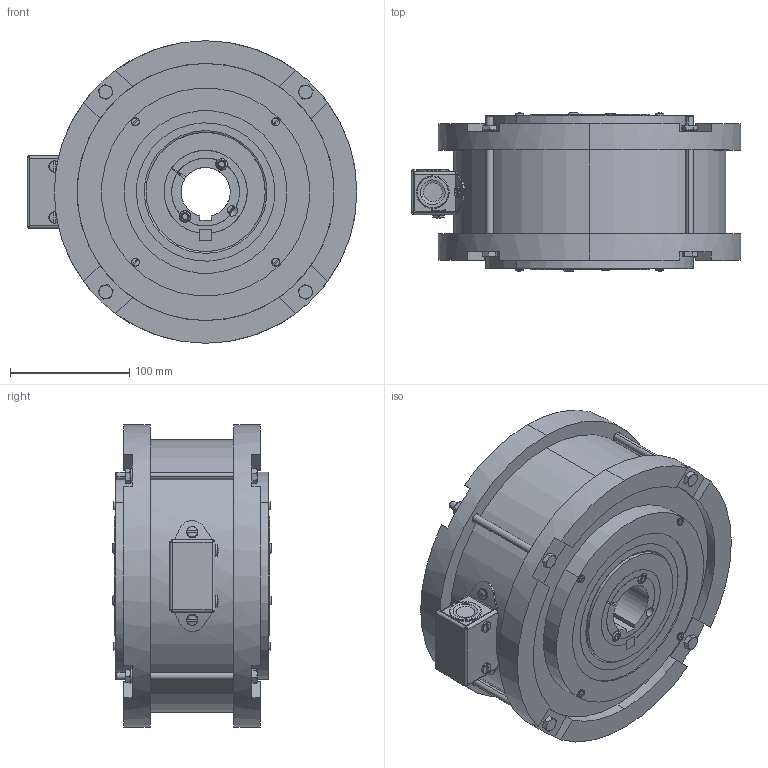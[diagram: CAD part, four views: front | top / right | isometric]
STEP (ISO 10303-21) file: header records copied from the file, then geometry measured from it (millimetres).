
FILE_DESCRIPTION (( 'STEP AP214' ), '1' );
FILE_NAME ('75MB90S_stp.step', '2026-05-13T16:33:28', ( '' ), ( '' ), 'SwSTEP 2.0', 'SolidWorks 2025', '' );
FILE_SCHEMA (( 'AUTOMOTIVE_DESIGN' ));
Length unit declared in the file: inch
Products named in the file (1): 75MB90S_stp
Bounding box: 276.83 x 132.69 x 254 mm (x, y, z)
Volume: 3647076.7 mm3; surface area: 760308.8 mm2
Topology: 12 solids, 37 shells, 1248 faces, 2921 edges, 1800 vertices
Faces by surface type: plane 428, cylinder 378, cone 264, torus 124, bspline 30, sphere 24
Entity records: 39037 total; most frequent: CARTESIAN_POINT 10220, DIRECTION 6398, ORIENTED_EDGE 5762, EDGE_CURVE 2881, AXIS2_PLACEMENT_3D 2660, VERTEX_POINT 1800, CIRCLE 1441, EDGE_LOOP 1409
